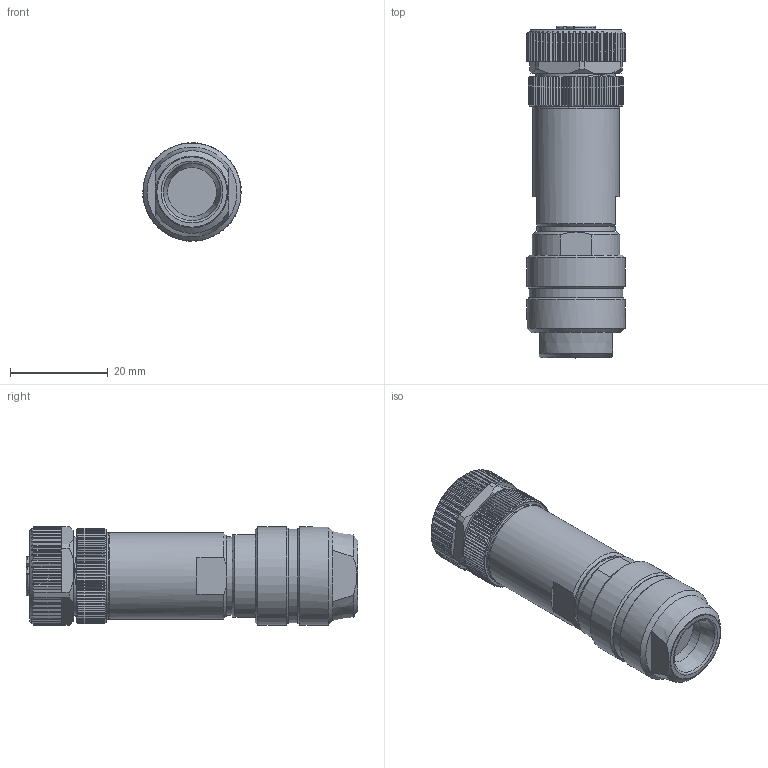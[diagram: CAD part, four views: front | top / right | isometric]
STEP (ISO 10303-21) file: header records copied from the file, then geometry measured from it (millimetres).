
FILE_DESCRIPTION(/* description */ (''),/* implementation_level */ '2;1');
FILE_NAME(/* name */ '99-1534-910-05_001_00.stp',/* time_stamp */ '2014-12-11T07:21:59+01:00',/* author */ (''),/* organization */ (''),/* preprocessor_version */ 'ST-DEVELOPER v14',/* originating_system */ 'SIEMENS PLM Software NX 8.0',/* authorisation */ '');
FILE_SCHEMA (('AUTOMOTIVE_DESIGN { 1 0 10303 214 3 1 1 1 }'));
Length unit declared in the file: millimetre
Products named in the file (1): sach19A47DD0emgu
Bounding box: 20.19 x 68 x 20.19 mm (x, y, z)
Volume: 17224.2 mm3; surface area: 5813.9 mm2
Topology: 1 solids, 1 shells, 867 faces, 2113 edges, 1263 vertices
Faces by surface type: plane 369, cylinder 243, cone 240, bspline 9, torus 4, sphere 2
Full cylindrical faces by diameter (mm): 8.1 x1, 10 x1, 10.917 x1, 16 x2, 17.7 x1, 18.1 x1, 19.1 x1, 20.1 x2
Entity records: 27383 total; most frequent: CARTESIAN_POINT 8094, ORIENTED_EDGE 4166, DIRECTION 3828, EDGE_CURVE 2083, AXIS2_PLACEMENT_3D 1532, VERTEX_POINT 1255, EDGE_LOOP 904, ADVANCED_FACE 867
